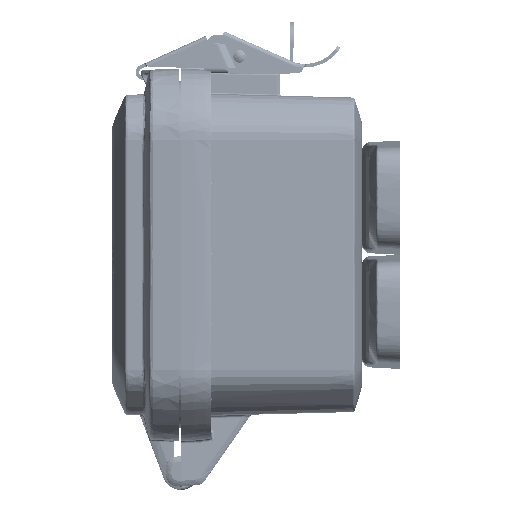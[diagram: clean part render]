
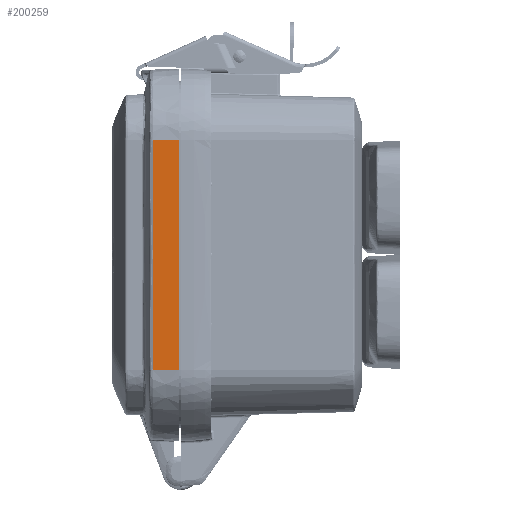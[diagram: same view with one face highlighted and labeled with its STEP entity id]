
A CAD part, left-side view. The second image highlights one B-rep face of the part: STEP entity #200259.
In plain terms, the highlighted planar face has unit normal (-0.999, 0.035, 0).
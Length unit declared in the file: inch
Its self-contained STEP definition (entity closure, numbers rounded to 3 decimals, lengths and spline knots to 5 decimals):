
#5373 = CARTESIAN_POINT ( 'NONE',  ( -2.93304, 0.34236, 0.25193 ) ) ;
#7450 = CARTESIAN_POINT ( 'NONE',  ( -2.93304, 0.34235, -1.40136 ) ) ;
#9530 = CARTESIAN_POINT ( 'NONE',  ( -2.93304, 0.34237, -1.44859 ) ) ;
#9861 = LINE ( 'NONE', #89912, #156419 ) ;
#11270 = EDGE_LOOP ( 'NONE', ( #138109, #199735, #40204, #121016, #163973 ) ) ;
#21188 = CARTESIAN_POINT ( 'NONE',  ( -2.93304, 0.34235, 1.40136 ) ) ;
#23300 = CARTESIAN_POINT ( 'NONE',  ( -2.93305, 0.34235, 1.51158 ) ) ;
#23996 = CARTESIAN_POINT ( 'NONE',  ( -2.945, 0., -1.51158 ) ) ;
#26572 = CARTESIAN_POINT ( 'NONE',  ( -2.945, 0., 1.51158 ) ) ;
#35479 = VERTEX_POINT ( 'NONE', #106502 ) ;
#38045 = CARTESIAN_POINT ( 'NONE',  ( -2.93304, 0.34236, 0.88175 ) ) ;
#40204 = ORIENTED_EDGE ( 'NONE', *, *, #185061, .T. ) ;
#41315 = VECTOR ( 'NONE', #141833, 39.37008 ) ;
#44027 = EDGE_CURVE ( 'NONE', #192521, #56666, #81713, .T. ) ;
#51789 = CARTESIAN_POINT ( 'NONE',  ( -2.93304, 0.34235, 0.50386 ) ) ;
#55926 = CARTESIAN_POINT ( 'NONE',  ( -2.93304, 0.34236, -0.88175 ) ) ;
#56666 = VERTEX_POINT ( 'NONE', #26572 ) ;
#57002 = CARTESIAN_POINT ( 'NONE',  ( -2.945, 0., -1.51158 ) ) ;
#58019 = CARTESIAN_POINT ( 'NONE',  ( -2.93304, 0.34243, -1.49583 ) ) ;
#67576 = CARTESIAN_POINT ( 'NONE',  ( -2.93304, 0.34235, 1.35412 ) ) ;
#69694 = CARTESIAN_POINT ( 'NONE',  ( -2.93304, 0.34235, -1.35412 ) ) ;
#73779 = CARTESIAN_POINT ( 'NONE',  ( -2.93304, 0.34238, -1.48009 ) ) ;
#75092 = CARTESIAN_POINT ( 'NONE',  ( -2.945, 0., -1.51158 ) ) ;
#78135 = AXIS2_PLACEMENT_3D ( 'NONE', #57002, #183431, #105419 ) ;
#81713 = LINE ( 'NONE', #176545, #41315 ) ;
#82248 = VERTEX_POINT ( 'NONE', #23996 ) ;
#85451 = CARTESIAN_POINT ( 'NONE',  ( -2.93305, 0.34235, 1.25965 ) ) ;
#89591 = CARTESIAN_POINT ( 'NONE',  ( -2.93304, 0.34235, 0. ) ) ;
#89912 = CARTESIAN_POINT ( 'NONE',  ( -2.945, 0., -1.51158 ) ) ;
#90610 = CARTESIAN_POINT ( 'NONE',  ( -2.93304, 0.34237, -1.00772 ) ) ;
#101148 = VERTEX_POINT ( 'NONE', #161679 ) ;
#101228 = CARTESIAN_POINT ( 'NONE',  ( -2.93304, 0.34243, 1.49583 ) ) ;
#105123 = EDGE_CURVE ( 'NONE', #192521, #101148, #191073, .T. ) ;
#105419 = DIRECTION ( 'NONE',  ( -0.035, -0.999, 0. ) ) ;
#106502 = CARTESIAN_POINT ( 'NONE',  ( -2.93305, 0.34235, -1.51158 ) ) ;
#106750 = DIRECTION ( 'NONE',  ( -0.035, -0.999, 0. ) ) ;
#121016 = ORIENTED_EDGE ( 'NONE', *, *, #146119, .T. ) ;
#123251 = B_SPLINE_CURVE_WITH_KNOTS ( 'NONE', 3,
 ( #89591, #134943, #151777, #55926, #90610, #167563, #200209, #69694, #7450, #9530, #73779, #58019, #186504 ),
 .UNSPECIFIED., .F., .F.,
 ( 4, 2, 2, 2, 1, 2, 4 ),
 ( 0., 0.0192, 0.0288, 0.03359, 0.03599, 0.03719, 0.03839 ),
 .UNSPECIFIED. ) ;
#129776 = CARTESIAN_POINT ( 'NONE',  ( -2.93304, 0.34235, 1.19666 ) ) ;
#130803 = CARTESIAN_POINT ( 'NONE',  ( -2.93305, 0.34235, 1.51158 ) ) ;
#134943 = CARTESIAN_POINT ( 'NONE',  ( -2.93304, 0.34236, -0.25193 ) ) ;
#136017 = FACE_OUTER_BOUND ( 'NONE', #11270, .T. ) ;
#138109 = ORIENTED_EDGE ( 'NONE', *, *, #44027, .F. ) ;
#138310 = DIRECTION ( 'NONE',  ( 0., 0., 1. ) ) ;
#141833 = DIRECTION ( 'NONE',  ( -0.035, -0.999, 0. ) ) ;
#142402 = EDGE_CURVE ( 'NONE', #82248, #56666, #155162, .T. ) ;
#146119 = EDGE_CURVE ( 'NONE', #35479, #82248, #9861, .T. ) ;
#151777 = CARTESIAN_POINT ( 'NONE',  ( -2.93304, 0.34235, -0.50386 ) ) ;
#155162 = LINE ( 'NONE', #75092, #155671 ) ;
#155671 = VECTOR ( 'NONE', #138310, 39.37008 ) ;
#156419 = VECTOR ( 'NONE', #106750, 39.37008 ) ;
#161679 = CARTESIAN_POINT ( 'NONE',  ( -2.93304, 0.34235, 0. ) ) ;
#163973 = ORIENTED_EDGE ( 'NONE', *, *, #142402, .T. ) ;
#165502 = CARTESIAN_POINT ( 'NONE',  ( -2.93304, 0.34238, 1.48009 ) ) ;
#167563 = CARTESIAN_POINT ( 'NONE',  ( -2.93304, 0.34235, -1.19666 ) ) ;
#176545 = CARTESIAN_POINT ( 'NONE',  ( -2.945, 0., 1.51158 ) ) ;
#183431 = DIRECTION ( 'NONE',  ( -0.999, 0.035, 0. ) ) ;
#185061 = EDGE_CURVE ( 'NONE', #101148, #35479, #123251, .T. ) ;
#186504 = CARTESIAN_POINT ( 'NONE',  ( -2.93305, 0.34235, -1.51158 ) ) ;
#191073 = B_SPLINE_CURVE_WITH_KNOTS ( 'NONE', 3,
 ( #130803, #101228, #165502, #195016, #21188, #67576, #85451, #129776, #196062, #38045, #51789, #5373, #198121 ),
 .UNSPECIFIED., .F., .F.,
 ( 4, 2, 1, 2, 2, 2, 4 ),
 ( 0., 0.0012, 0.0024, 0.0048, 0.0096, 0.0192, 0.03839 ),
 .UNSPECIFIED. ) ;
#192521 = VERTEX_POINT ( 'NONE', #23300 ) ;
#195016 = CARTESIAN_POINT ( 'NONE',  ( -2.93304, 0.34237, 1.44859 ) ) ;
#196062 = CARTESIAN_POINT ( 'NONE',  ( -2.93304, 0.34237, 1.00772 ) ) ;
#198121 = CARTESIAN_POINT ( 'NONE',  ( -2.93304, 0.34235, 0. ) ) ;
#199735 = ORIENTED_EDGE ( 'NONE', *, *, #105123, .T. ) ;
#200209 = CARTESIAN_POINT ( 'NONE',  ( -2.93305, 0.34235, -1.25965 ) ) ;
#200259 = ADVANCED_FACE ( 'NONE', ( #136017 ), #201290, .T. ) ;
#201290 = PLANE ( 'NONE',  #78135 ) ;
